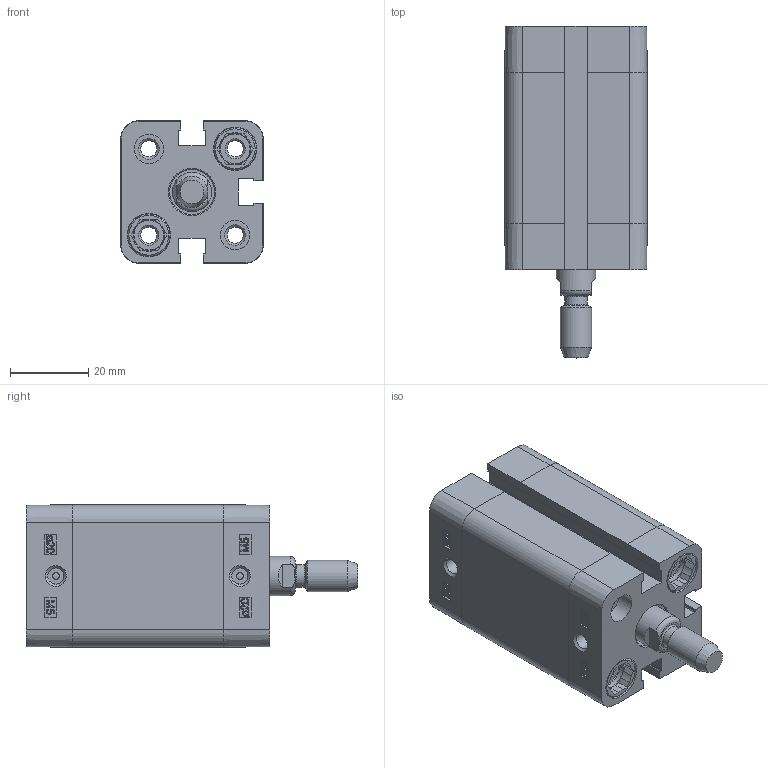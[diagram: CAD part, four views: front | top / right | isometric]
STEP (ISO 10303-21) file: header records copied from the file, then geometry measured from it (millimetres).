
FILE_DESCRIPTION((''),'2;1');
FILE_NAME('T:\Archivio Inventor\- CATALOGHI 2012\SERIE P - NUOVA\PDM\PDM020\PDM020.---.GS.M\STEP\PDM020.025.GS.M.stp','2013-01-30T10:55:46',('Administrator'),(''),'Autodesk Inventor 2012','Autodesk Inventor 2012','');
FILE_SCHEMA(('CONFIG_CONTROL_DESIGN'));
Length unit declared in the file: millimetre
Products named in the file (1): PDM020.025.GS.M
Bounding box: 36.3 x 84.6 x 36.3 mm (x, y, z)
Volume: 48097 mm3; surface area: 27038.5 mm2
Topology: 1 solids, 3 shells, 489 faces, 1225 edges, 798 vertices
Faces by surface type: plane 245, bspline 94, cylinder 88, cone 50, torus 12
Full cylindrical faces by diameter (mm): 1.75 x2, 4.134 x10, 5.8 x1, 7.5 x4, 7.55 x2, 8 x9, 9 x1, 10 x1, 10.8 x4, 11.1 x4, 11.4 x1, 20 x1, 22.3 x1, 22.5 x1
Entity records: 15051 total; most frequent: CARTESIAN_POINT 3734, ORIENTED_EDGE 2232, DIRECTION 1950, EDGE_CURVE 1116, VERTEX_POINT 782, VECTOR 670, LINE 670, EDGE_LOOP 652
